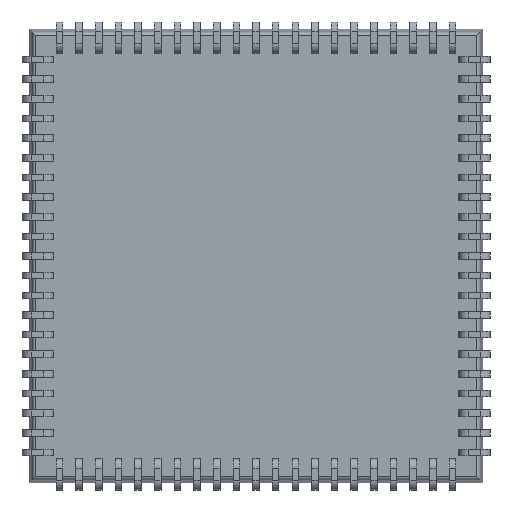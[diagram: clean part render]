
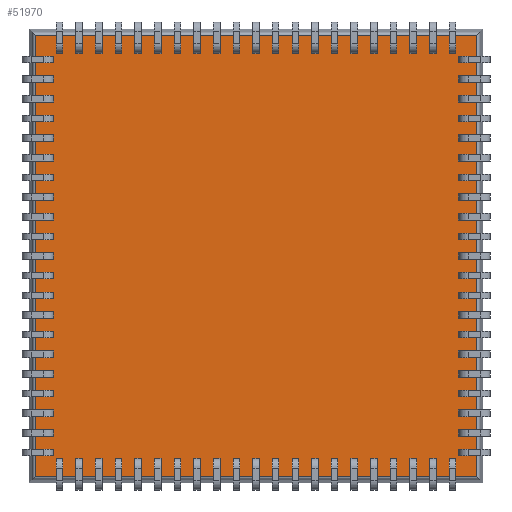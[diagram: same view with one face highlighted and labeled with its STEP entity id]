
A CAD part, front view. The second image highlights one B-rep face of the part: STEP entity #51970.
In plain terms, the highlighted planar face has unit normal (0, -1, 0).
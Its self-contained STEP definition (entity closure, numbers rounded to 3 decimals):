
#51931 = CARTESIAN_POINT ( 'NONE',  ( -14.249, 0.775, 14.249 ) ) ;
#51932 = VERTEX_POINT ( 'NONE', #51931 ) ;
#51933 = CARTESIAN_POINT ( 'NONE',  ( -14.249, 0.775, -14.249 ) ) ;
#51934 = VERTEX_POINT ( 'NONE', #51933 ) ;
#51935 = CARTESIAN_POINT ( 'NONE',  ( -14.249, 0.775, -14.417 ) ) ;
#51936 = DIRECTION ( 'NONE',  ( 0., 0., -1. ) ) ;
#51937 = VECTOR ( 'NONE', #51936, 1000. ) ;
#51938 = LINE ( 'NONE', #51935, #51937 ) ;
#51939 = EDGE_CURVE ( 'NONE', #51932, #51934, #51938, .T. ) ;
#51940 = ORIENTED_EDGE ( 'NONE', *, *, #51939, .T. ) ;
#51941 = CARTESIAN_POINT ( 'NONE',  ( 14.249, 0.775, -14.249 ) ) ;
#51942 = VERTEX_POINT ( 'NONE', #51941 ) ;
#51943 = CARTESIAN_POINT ( 'NONE',  ( 14.417, 0.775, -14.249 ) ) ;
#51944 = DIRECTION ( 'NONE',  ( 1., 0., 0. ) ) ;
#51945 = VECTOR ( 'NONE', #51944, 1000. ) ;
#51946 = LINE ( 'NONE', #51943, #51945 ) ;
#51947 = EDGE_CURVE ( 'NONE', #51934, #51942, #51946, .T. ) ;
#51948 = ORIENTED_EDGE ( 'NONE', *, *, #51947, .T. ) ;
#51949 = CARTESIAN_POINT ( 'NONE',  ( 14.249, 0.775, 14.249 ) ) ;
#51950 = VERTEX_POINT ( 'NONE', #51949 ) ;
#51951 = CARTESIAN_POINT ( 'NONE',  ( 14.249, 0.775, 14.417 ) ) ;
#51952 = DIRECTION ( 'NONE',  ( 0., 0., 1. ) ) ;
#51953 = VECTOR ( 'NONE', #51952, 1000. ) ;
#51954 = LINE ( 'NONE', #51951, #51953 ) ;
#51955 = EDGE_CURVE ( 'NONE', #51942, #51950, #51954, .T. ) ;
#51956 = ORIENTED_EDGE ( 'NONE', *, *, #51955, .T. ) ;
#51957 = CARTESIAN_POINT ( 'NONE',  ( -14.417, 0.775, 14.249 ) ) ;
#51958 = DIRECTION ( 'NONE',  ( -1., 0., 0. ) ) ;
#51959 = VECTOR ( 'NONE', #51958, 1000. ) ;
#51960 = LINE ( 'NONE', #51957, #51959 ) ;
#51961 = EDGE_CURVE ( 'NONE', #51950, #51932, #51960, .T. ) ;
#51962 = ORIENTED_EDGE ( 'NONE', *, *, #51961, .T. ) ;
#51963 = EDGE_LOOP ( 'NONE', ( #51940, #51948, #51956, #51962 ) ) ;
#51964 = FACE_OUTER_BOUND ( 'NONE', #51963, .T. ) ;
#51965 = CARTESIAN_POINT ( 'NONE',  ( 0., 0.775, 0. ) ) ;
#51966 = DIRECTION ( 'NONE',  ( 0., 1., 0. ) ) ;
#51967 = DIRECTION ( 'NONE',  ( 0., 0., 1. ) ) ;
#51968 = AXIS2_PLACEMENT_3D ( 'NONE', #51965, #51966, #51967 ) ;
#51969 = PLANE ( 'NONE', #51968 ) ;
#51970 = ADVANCED_FACE ( 'NONE', ( #51964 ), #51969, .F. ) ;
